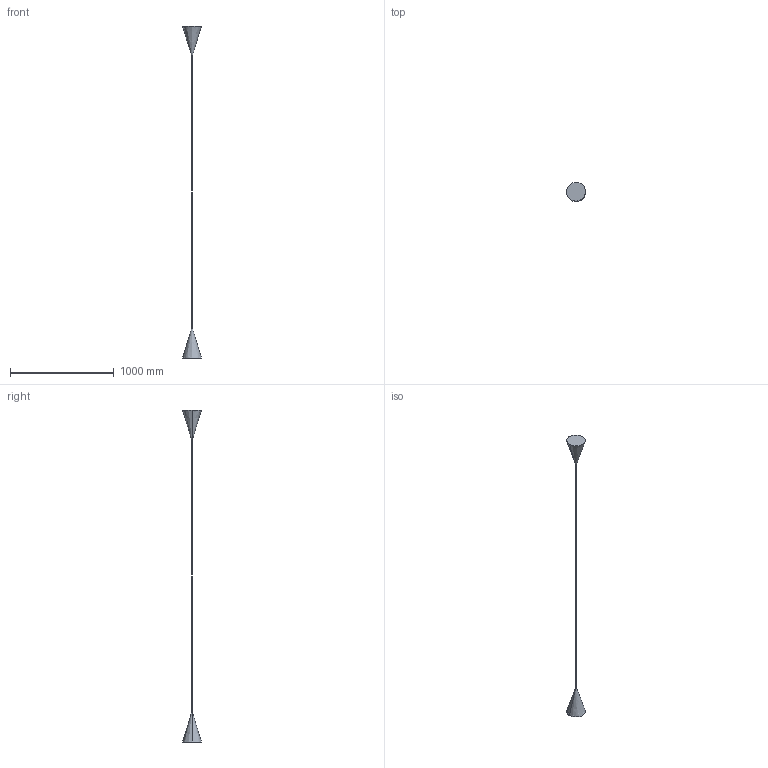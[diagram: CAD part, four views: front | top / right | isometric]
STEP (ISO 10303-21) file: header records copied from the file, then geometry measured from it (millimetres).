
FILE_DESCRIPTION(/* description */ (''),/* implementation_level */ '2;1');
FILE_NAME(/* name */ 'PEAKS-1-down',/* time_stamp */ '2023-08-21T16:58:11+01:00',/* author */ (''),/* organization */ (''),/* preprocessor_version */ 'ST-DEVELOPER v16.5',/* originating_system */ 'Rhino 7.32',/* authorisation */ '');
FILE_SCHEMA (('CONFIG_CONTROL_DESIGN'));
Length unit declared in the file: millimetre
Products named in the file (1): Document
Bounding box: 180 x 179.77 x 3200 mm (x, y, z)
Volume: 5057510.1 mm3; surface area: 264312.3 mm2
Topology: 1 solids, 1 shells, 10 faces, 18 edges, 12 vertices
Faces by surface type: bspline 4, plane 4, cylinder 2
Entity records: 356 total; most frequent: CARTESIAN_POINT 144, ORIENTED_EDGE 36, EDGE_CURVE 18, EDGE_LOOP 12, VERTEX_POINT 12, ADVANCED_FACE 10, FACE_OUTER_BOUND 10, DIRECTION 10
